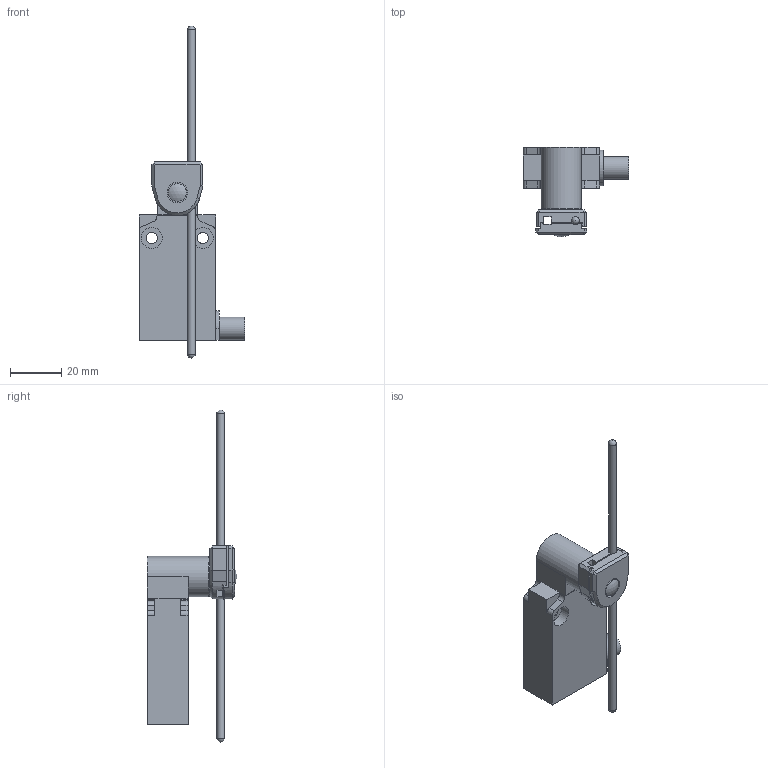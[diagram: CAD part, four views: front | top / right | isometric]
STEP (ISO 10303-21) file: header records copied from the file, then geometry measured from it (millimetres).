
FILE_DESCRIPTION(/* description */ (''),/* implementation_level */ '2;1');
FILE_NAME(/* name */ 'M49AD_side CABLE.stp',/* time_stamp */ '2024-11-20T10:09:22+01:00',/* author */ ('servizio.tecnico'),/* organization */ (''),/* preprocessor_version */ 'ST-DEVELOPER v19.2',/* originating_system */ 'Autodesk Inventor 2024',/* authorisation */ '');
FILE_SCHEMA (('AUTOMOTIVE_DESIGN { 1 0 10303 214 3 1 1 }'));
Length unit declared in the file: millimetre
Products named in the file (1): M49AD_side CABLE
Bounding box: 41.5 x 35.03 x 130 mm (x, y, z)
Volume: 31591.1 mm3; surface area: 12144 mm2
Topology: 4 solids, 4 shells, 144 faces, 360 edges, 233 vertices
Faces by surface type: plane 104, cylinder 34, sphere 3, cone 2, torus 1
Full cylindrical faces by diameter (mm): 3 x1, 4.4 x2, 5 x1, 7 x1, 8 x1, 8.2 x4, 9 x1, 11 x1, 15.8 x1
Entity records: 4397 total; most frequent: CARTESIAN_POINT 766, DIRECTION 730, ORIENTED_EDGE 716, EDGE_CURVE 358, LINE 272, VECTOR 272, VERTEX_POINT 233, AXIS2_PLACEMENT_3D 229
